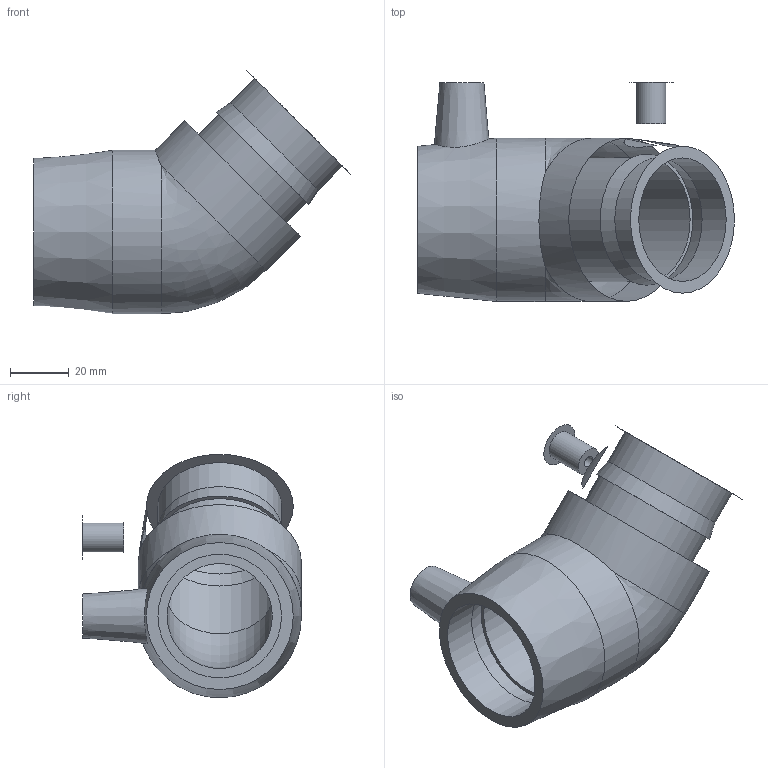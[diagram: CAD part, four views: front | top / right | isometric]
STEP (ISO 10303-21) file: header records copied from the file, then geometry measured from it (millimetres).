
FILE_DESCRIPTION(/* description */ ('PLASSON 45° ELBOW 1 3/4'''''),/* implementation_level */ '2;1');
FILE_NAME(/* name */ 'C:\Dropbox\KIMPROJECTS-Inventor 2019\99-16-3568-Processing Inch\ASTM ElectroFusion 2021\5906B\5906B003013.ipt.stp',/* time_stamp */ '2021-08-30T09:50:01+03:00',/* author */ ('KIM'),/* organization */ (''),/* preprocessor_version */ 'ST-DEVELOPER v17.2',/* originating_system */ 'Autodesk Inventor 2019',/* authorisation */ '');
FILE_SCHEMA (('AUTOMOTIVE_DESIGN { 1 0 10303 214 3 1 1 }'));
Length unit declared in the file: inch
Products named in the file (1): 5906B003013
Bounding box: 107.95 x 74.55 x 82.9 mm (x, y, z)
Volume: 109555.9 mm3; surface area: 36903.9 mm2
Topology: 1 solids, 1 shells, 30 faces, 66 edges, 46 vertices
Faces by surface type: plane 12, cylinder 10, cone 6, bspline 1, torus 1
Full cylindrical faces by diameter (mm): 4 x2, 10 x2, 42.1 x4, 55.626 x2
Entity records: 981 total; most frequent: CARTESIAN_POINT 235, DIRECTION 164, ORIENTED_EDGE 128, AXIS2_PLACEMENT_3D 74, EDGE_CURVE 64, VERTEX_POINT 46, CIRCLE 43, EDGE_LOOP 42
